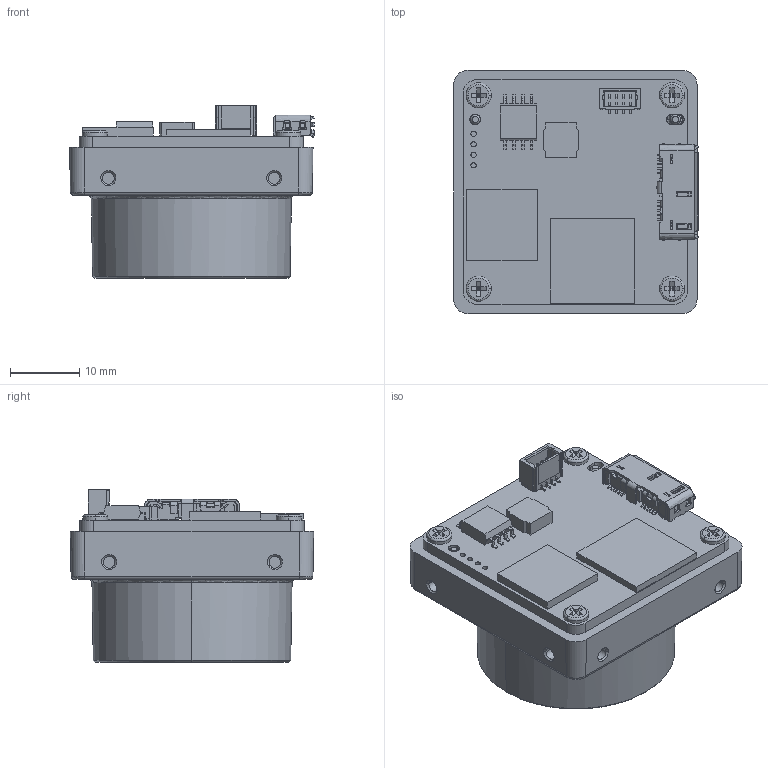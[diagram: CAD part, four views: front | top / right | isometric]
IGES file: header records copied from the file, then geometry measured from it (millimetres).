
Start section:  PTC IGES file: mv-cb013-a0um-c111111.igs
Global section: file name: mv-cb013-a0um-c111111.igs; native system: Creo Parametric by PTC Inc.; preprocessor: 2017260; author: wangyijun6; organization: Unknown; date: 20211208.123939; units: millimetre
Bounding box: 35.44 x 35.24 x 25.03 mm (x, y, z)
Volume: 12360.4 mm3; surface area: 7532.6 mm2
Topology: 2 solids, 16 shells, 1847 faces, 5438 edges, 3540 vertices
Faces by surface type: bspline 1156, revolution 691
